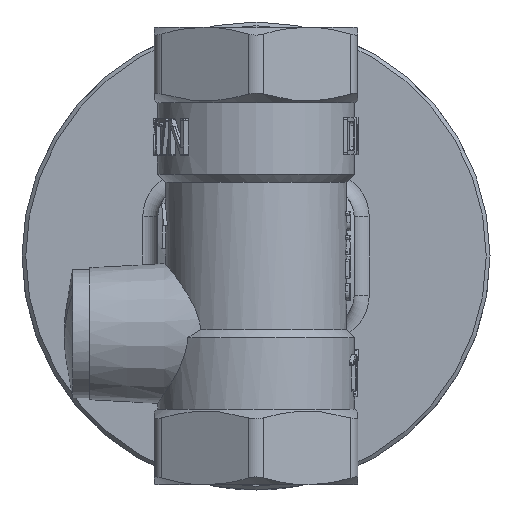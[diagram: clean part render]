
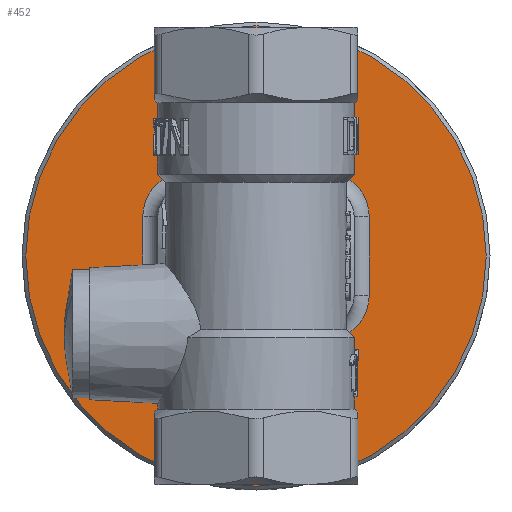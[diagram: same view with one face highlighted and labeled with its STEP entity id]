
A CAD part, front view. The second image highlights one B-rep face of the part: STEP entity #452.
In plain terms, the highlighted planar face has unit normal (0, -1, 0).
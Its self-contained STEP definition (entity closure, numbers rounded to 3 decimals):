
#452=ADVANCED_FACE('',(#3224,#3226),#3228,.F.);
#3224=FACE_BOUND('',#3225,.T.);
#3225=EDGE_LOOP('',(#6787));
#3226=FACE_BOUND('',#3227,.T.);
#3227=EDGE_LOOP('',(#6788,#6789,#6790,#6791,#6792,#6793,#6794,#6795,#6796,#6797,
#6798,#6799));
#3228=PLANE('',#3229);
#3229=AXIS2_PLACEMENT_3D('',#3230,#3231,#3232);
#3230=CARTESIAN_POINT('',(0.,54.5,0.));
#3231=DIRECTION('',(0.,1.,0.));
#3232=DIRECTION('',(0.,0.,-1.));
#6787=ORIENTED_EDGE('',*,*,#8427,.F.);
#6788=ORIENTED_EDGE('',*,*,#8353,.T.);
#6789=ORIENTED_EDGE('',*,*,#8351,.T.);
#6790=ORIENTED_EDGE('',*,*,#8349,.T.);
#6791=ORIENTED_EDGE('',*,*,#8347,.T.);
#6792=ORIENTED_EDGE('',*,*,#8345,.T.);
#6793=ORIENTED_EDGE('',*,*,#8343,.T.);
#6794=ORIENTED_EDGE('',*,*,#8365,.T.);
#6795=ORIENTED_EDGE('',*,*,#8363,.T.);
#6796=ORIENTED_EDGE('',*,*,#8361,.T.);
#6797=ORIENTED_EDGE('',*,*,#8359,.T.);
#6798=ORIENTED_EDGE('',*,*,#8357,.T.);
#6799=ORIENTED_EDGE('',*,*,#8355,.T.);
#8343=EDGE_CURVE('',#10432,#10430,#10433,.F.);
#8345=EDGE_CURVE('',#10435,#10432,#10436,.F.);
#8347=EDGE_CURVE('',#10438,#10435,#10439,.F.);
#8349=EDGE_CURVE('',#10441,#10438,#10442,.F.);
#8351=EDGE_CURVE('',#10444,#10441,#10445,.F.);
#8353=EDGE_CURVE('',#10447,#10444,#10448,.F.);
#8355=EDGE_CURVE('',#10450,#10447,#10451,.F.);
#8357=EDGE_CURVE('',#10453,#10450,#10454,.F.);
#8359=EDGE_CURVE('',#10456,#10453,#10457,.F.);
#8361=EDGE_CURVE('',#10459,#10456,#10460,.F.);
#8363=EDGE_CURVE('',#10462,#10459,#10463,.F.);
#8365=EDGE_CURVE('',#10430,#10462,#10465,.F.);
#8427=EDGE_CURVE('',#10551,#10551,#10552,.T.);
#10430=VERTEX_POINT('',#23807);
#10432=VERTEX_POINT('',#23812);
#10433=CIRCLE('',#23813,6.);
#10435=VERTEX_POINT('',#23821);
#10436=LINE('',#23822,#23823);
#10438=VERTEX_POINT('',#23829);
#10439=CIRCLE('',#23830,6.);
#10441=VERTEX_POINT('',#23838);
#10442=LINE('',#23839,#23840);
#10444=VERTEX_POINT('',#23846);
#10445=CIRCLE('',#23847,6.);
#10447=VERTEX_POINT('',#23855);
#10448=LINE('',#23856,#23857);
#10450=VERTEX_POINT('',#23863);
#10451=CIRCLE('',#23864,6.);
#10453=VERTEX_POINT('',#23872);
#10454=LINE('',#23873,#23874);
#10456=VERTEX_POINT('',#23880);
#10457=CIRCLE('',#23881,6.);
#10459=VERTEX_POINT('',#23889);
#10460=LINE('',#23890,#23891);
#10462=VERTEX_POINT('',#23897);
#10463=CIRCLE('',#23898,6.);
#10465=LINE('',#23906,#23907);
#10551=VERTEX_POINT('',#24389);
#10552=CIRCLE('',#24390,30.5);
#23807=CARTESIAN_POINT('',(-3.,54.5,-15.588));
#23812=CARTESIAN_POINT('',(3.,54.5,-15.588));
#23813=AXIS2_PLACEMENT_3D('',#23814,#23815,#23816);
#23814=CARTESIAN_POINT('',(0.,54.5,-10.392));
#23815=DIRECTION('',(0.,-1.,0.));
#23816=DIRECTION('',(-0.5,0.,-0.866));
#23821=CARTESIAN_POINT('',(12.,54.5,-10.392));
#23822=CARTESIAN_POINT('',(3.,54.5,-15.588));
#23823=VECTOR('',#23824,1.);
#23824=DIRECTION('',(0.866,0.,0.5));
#23829=CARTESIAN_POINT('',(15.,54.5,-5.196));
#23830=AXIS2_PLACEMENT_3D('',#23831,#23832,#23833);
#23831=CARTESIAN_POINT('',(9.,54.5,-5.196));
#23832=DIRECTION('',(0.,-1.,0.));
#23833=DIRECTION('',(0.5,0.,-0.866));
#23838=CARTESIAN_POINT('',(15.,54.5,5.196));
#23839=CARTESIAN_POINT('',(15.,54.5,-5.196));
#23840=VECTOR('',#23841,1.);
#23841=DIRECTION('',(0.,0.,1.));
#23846=CARTESIAN_POINT('',(12.,54.5,10.392));
#23847=AXIS2_PLACEMENT_3D('',#23848,#23849,#23850);
#23848=CARTESIAN_POINT('',(9.,54.5,5.196));
#23849=DIRECTION('',(0.,-1.,0.));
#23850=DIRECTION('',(1.,0.,0.));
#23855=CARTESIAN_POINT('',(3.,54.5,15.588));
#23856=CARTESIAN_POINT('',(12.,54.5,10.392));
#23857=VECTOR('',#23858,1.);
#23858=DIRECTION('',(-0.866,0.,0.5));
#23863=CARTESIAN_POINT('',(-3.,54.5,15.588));
#23864=AXIS2_PLACEMENT_3D('',#23865,#23866,#23867);
#23865=CARTESIAN_POINT('',(0.,54.5,10.392));
#23866=DIRECTION('',(0.,-1.,0.));
#23867=DIRECTION('',(0.5,0.,0.866));
#23872=CARTESIAN_POINT('',(-12.,54.5,10.392));
#23873=CARTESIAN_POINT('',(-3.,54.5,15.588));
#23874=VECTOR('',#23875,1.);
#23875=DIRECTION('',(-0.866,0.,-0.5));
#23880=CARTESIAN_POINT('',(-15.,54.5,5.196));
#23881=AXIS2_PLACEMENT_3D('',#23882,#23883,#23884);
#23882=CARTESIAN_POINT('',(-9.,54.5,5.196));
#23883=DIRECTION('',(0.,-1.,0.));
#23884=DIRECTION('',(-0.5,0.,0.866));
#23889=CARTESIAN_POINT('',(-15.,54.5,-5.196));
#23890=CARTESIAN_POINT('',(-15.,54.5,5.196));
#23891=VECTOR('',#23892,1.);
#23892=DIRECTION('',(0.,0.,-1.));
#23897=CARTESIAN_POINT('',(-12.,54.5,-10.392));
#23898=AXIS2_PLACEMENT_3D('',#23899,#23900,#23901);
#23899=CARTESIAN_POINT('',(-9.,54.5,-5.196));
#23900=DIRECTION('',(0.,-1.,0.));
#23901=DIRECTION('',(-1.,0.,0.));
#23906=CARTESIAN_POINT('',(-12.,54.5,-10.392));
#23907=VECTOR('',#23908,1.);
#23908=DIRECTION('',(0.866,0.,-0.5));
#24389=CARTESIAN_POINT('',(0.,54.5,-30.5));
#24390=AXIS2_PLACEMENT_3D('',#24391,#24392,#24393);
#24391=CARTESIAN_POINT('',(0.,54.5,0.));
#24392=DIRECTION('',(0.,1.,0.));
#24393=DIRECTION('',(0.,0.,-1.));
